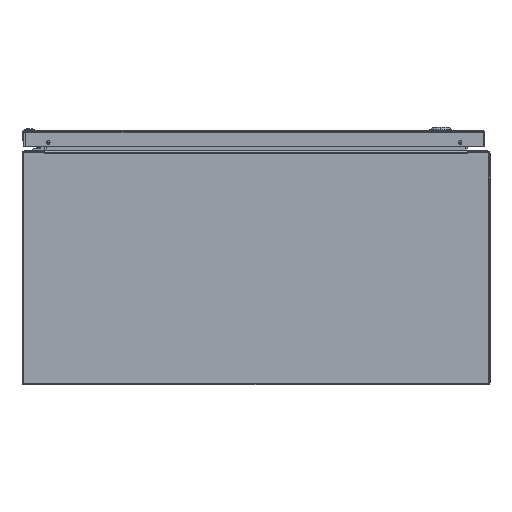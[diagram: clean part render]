
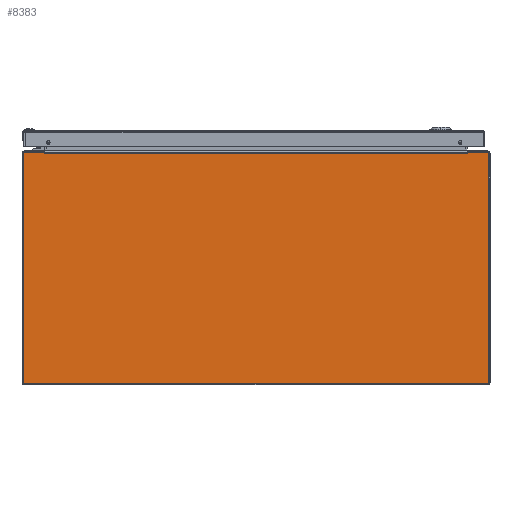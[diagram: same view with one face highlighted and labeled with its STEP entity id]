
A CAD part, front view. The second image highlights one B-rep face of the part: STEP entity #8383.
In plain terms, the highlighted planar face has unit normal (0, -1, 0).
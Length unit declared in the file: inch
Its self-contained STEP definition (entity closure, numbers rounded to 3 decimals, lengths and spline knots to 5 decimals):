
#7486=CARTESIAN_POINT('',(11.887,0.,5.897));
#7487=DIRECTION('',(0.,-1.,0.));
#7488=DIRECTION('',(1.,0.,0.));
#7489=AXIS2_PLACEMENT_3D('',#7486,#7487,#7488);
#7494=DIRECTION('',(0.,0.,-1.));
#7495=VECTOR('',#7494,11.764);
#7496=CARTESIAN_POINT('',(11.967,0.,5.897));
#7497=LINE('',#7496,#7495);
#7501=CARTESIAN_POINT('',(11.887,0.,-5.867));
#7502=DIRECTION('',(0.,-1.,0.));
#7503=DIRECTION('',(0.,0.,-1.));
#7504=AXIS2_PLACEMENT_3D('',#7501,#7502,#7503);
#7509=CARTESIAN_POINT('',(-11.887,0.,-5.867));
#7510=DIRECTION('',(0.,-1.,0.));
#7511=DIRECTION('',(-1.,0.,0.));
#7512=AXIS2_PLACEMENT_3D('',#7509,#7510,#7511);
#7517=DIRECTION('',(0.,0.,1.));
#7518=VECTOR('',#7517,11.764);
#7519=CARTESIAN_POINT('',(-11.967,0.,-5.867));
#7520=LINE('',#7519,#7518);
#7524=CARTESIAN_POINT('',(-11.887,0.,5.897));
#7525=DIRECTION('',(0.,-1.,0.));
#7526=DIRECTION('',(0.,0.,1.));
#7527=AXIS2_PLACEMENT_3D('',#7524,#7525,#7526);
#7539=DIRECTION('',(-1.,0.,0.));
#7540=VECTOR('',#7539,1.062);
#7541=CARTESIAN_POINT('',(11.887,0.,5.977));
#7542=LINE('',#7541,#7540);
#7567=DIRECTION('',(0.,0.,-1.));
#7568=VECTOR('',#7567,0.094);
#7569=CARTESIAN_POINT('',(10.825,0.,5.977));
#7570=LINE('',#7569,#7568);
#7710=DIRECTION('',(1.,0.,0.));
#7711=VECTOR('',#7710,21.65);
#7712=CARTESIAN_POINT('',(-10.825,0.,5.883));
#7713=LINE('',#7712,#7711);
#7754=DIRECTION('',(0.,0.,1.));
#7755=VECTOR('',#7754,0.094);
#7756=CARTESIAN_POINT('',(-10.825,0.,5.883));
#7757=LINE('',#7756,#7755);
#7789=DIRECTION('',(-1.,0.,0.));
#7790=VECTOR('',#7789,1.062);
#7791=CARTESIAN_POINT('',(-10.825,0.,5.977));
#7792=LINE('',#7791,#7790);
#7831=DIRECTION('',(1.,0.,0.));
#7832=VECTOR('',#7831,23.774);
#7833=CARTESIAN_POINT('',(-11.887,0.,-5.947));
#7834=LINE('',#7833,#7832);
#8236=CARTESIAN_POINT('',(-10.825,0.,5.883));
#8237=CARTESIAN_POINT('',(10.825,0.,5.883));
#8238=VERTEX_POINT('',#8236);
#8239=VERTEX_POINT('',#8237);
#8312=CARTESIAN_POINT('',(10.825,0.,5.977));
#8314=VERTEX_POINT('',#8312);
#8316=CARTESIAN_POINT('',(-10.825,0.,5.977));
#8318=VERTEX_POINT('',#8316);
#8320=CARTESIAN_POINT('',(11.967,0.,5.897));
#8321=CARTESIAN_POINT('',(11.887,0.,5.977));
#8322=VERTEX_POINT('',#8320);
#8323=VERTEX_POINT('',#8321);
#8328=CARTESIAN_POINT('',(11.887,0.,-5.947));
#8329=CARTESIAN_POINT('',(11.967,0.,-5.867));
#8330=VERTEX_POINT('',#8328);
#8331=VERTEX_POINT('',#8329);
#8336=CARTESIAN_POINT('',(-11.967,0.,-5.867));
#8337=CARTESIAN_POINT('',(-11.887,0.,-5.947));
#8338=VERTEX_POINT('',#8336);
#8339=VERTEX_POINT('',#8337);
#8344=CARTESIAN_POINT('',(-11.887,0.,5.977));
#8345=CARTESIAN_POINT('',(-11.967,0.,5.897));
#8346=VERTEX_POINT('',#8344);
#8347=VERTEX_POINT('',#8345);
#8352=CARTESIAN_POINT('',(0.,0.,0.));
#8353=DIRECTION('',(0.,-1.,0.));
#8354=DIRECTION('',(-1.,0.,0.));
#8355=AXIS2_PLACEMENT_3D('',#8352,#8353,#8354);
#8356=PLANE('',#8355);
#8358=ORIENTED_EDGE('',*,*,#8357,.F.);
#8360=ORIENTED_EDGE('',*,*,#8359,.T.);
#8362=ORIENTED_EDGE('',*,*,#8361,.F.);
#8364=ORIENTED_EDGE('',*,*,#8363,.F.);
#8366=ORIENTED_EDGE('',*,*,#8365,.F.);
#8368=ORIENTED_EDGE('',*,*,#8367,.T.);
#8370=ORIENTED_EDGE('',*,*,#8369,.F.);
#8372=ORIENTED_EDGE('',*,*,#8371,.F.);
#8374=ORIENTED_EDGE('',*,*,#8373,.F.);
#8376=ORIENTED_EDGE('',*,*,#8375,.T.);
#8378=ORIENTED_EDGE('',*,*,#8377,.F.);
#8380=ORIENTED_EDGE('',*,*,#8379,.F.);
#8381=EDGE_LOOP('',(#8358,#8360,#8362,#8364,#8366,#8368,#8370,#8372,#8374,#8376,
#8378,#8380));
#8382=FACE_OUTER_BOUND('',#8381,.F.);
#7490=CIRCLE('',#7489,0.08);
#7505=CIRCLE('',#7504,0.08);
#7513=CIRCLE('',#7512,0.08);
#7528=CIRCLE('',#7527,0.08);
#8357=EDGE_CURVE('',#8322,#8323,#7490,.T.);
#8359=EDGE_CURVE('',#8322,#8331,#7497,.T.);
#8361=EDGE_CURVE('',#8330,#8331,#7505,.T.);
#8363=EDGE_CURVE('',#8339,#8330,#7834,.T.);
#8365=EDGE_CURVE('',#8338,#8339,#7513,.T.);
#8367=EDGE_CURVE('',#8338,#8347,#7520,.T.);
#8369=EDGE_CURVE('',#8346,#8347,#7528,.T.);
#8371=EDGE_CURVE('',#8318,#8346,#7792,.T.);
#8373=EDGE_CURVE('',#8238,#8318,#7757,.T.);
#8375=EDGE_CURVE('',#8238,#8239,#7713,.T.);
#8377=EDGE_CURVE('',#8314,#8239,#7570,.T.);
#8379=EDGE_CURVE('',#8323,#8314,#7542,.T.);
#8383=ADVANCED_FACE('',(#8382),#8356,.T.);
